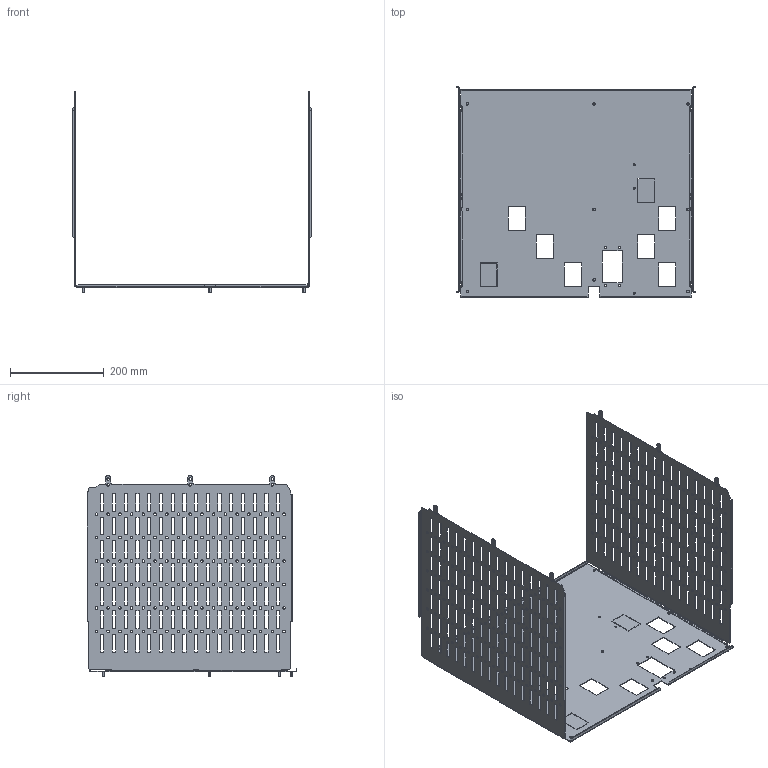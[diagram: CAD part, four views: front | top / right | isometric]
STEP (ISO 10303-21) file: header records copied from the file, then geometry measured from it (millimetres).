
FILE_DESCRIPTION(('CAx-IF Rec.Pracs.---Model Styling and Organization---1.2---2011-12-15','CAx-IF Rec.Pracs.---Geometric and Assembly Validation Properties---4.1---2014-06-16','CAx-IF Rec.Pracs.---PMI Polyline Presentation---2.0---2013-05-24'),'2;1');
FILE_NAME('R5M2W9M1A66.stp','2021-05-05T12:34:50+03:00',(''),(''),'STEP Interface 4.4 by CT CoreTechnologie','3D_Evolution4.4 by CT CoreTechnologie','');
FILE_SCHEMA(('AUTOMOTIVE_DESIGN { 1 0 10303 214 1 1 1 1 }'));
Length unit declared in the file: millimetre
Products named in the file (5): R5M2W9M1A66; RB.1257.00.00.0_-15; M5x8-DIN7500C_stright; RB.1285.00.00.0_-14; RB.1285.00.00.0_-15
Assembly tree (12 placements, depth 2):
  R5M2W9M1A66
    RB.1257.00.00.0_-15
    M5x8-DIN7500C_stright  x9
    RB.1285.00.00.0_-14
    RB.1285.00.00.0_-15
Bounding box: 510 x 447.5 x 428.6 mm (x, y, z)
Surface area: 1035999.7 mm2 (no closed solid volume)
Topology: 0 solids, 16 shells, 1698 faces, 5038 edges, 3360 vertices
Faces by surface type: plane 1158, cylinder 540
Entity records: 58250 total; most frequent: CARTESIAN_POINT 9997, ORIENTED_EDGE 9980, DIRECTION 9404, EDGE_CURVE 4990, VECTOR 3934, LINE 3934, VERTEX_POINT 3328, AXIS2_PLACEMENT_3D 2735
